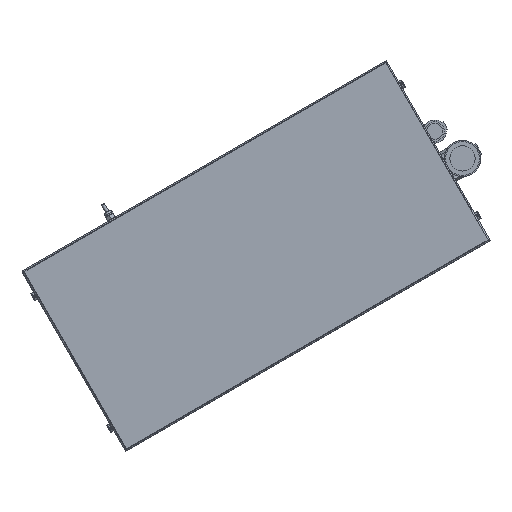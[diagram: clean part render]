
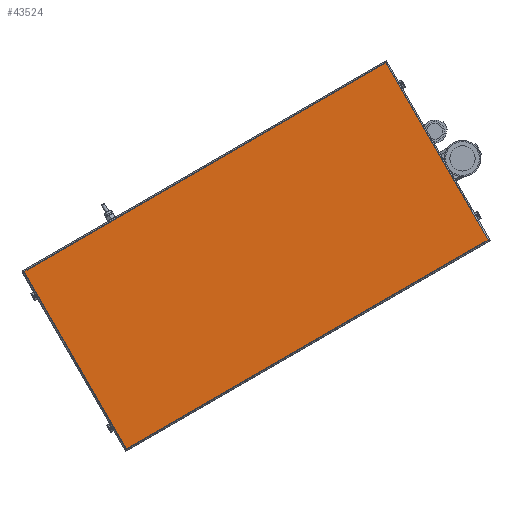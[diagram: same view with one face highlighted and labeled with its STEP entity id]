
A CAD part, top view. The second image highlights one B-rep face of the part: STEP entity #43524.
In plain terms, the highlighted planar face has unit normal (0, 0, 1).
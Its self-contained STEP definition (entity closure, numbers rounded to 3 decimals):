
#58 = DIRECTION ( 'NONE',  ( -0.5, 0.866, 0. ) ) ;
#266 = CARTESIAN_POINT ( 'NONE',  ( 384.735, 82.119, 959.5 ) ) ;
#1421 = EDGE_CURVE ( 'NONE', #32925, #24622, #3110, .T. ) ;
#2532 = ORIENTED_EDGE ( 'NONE', *, *, #36481, .T. ) ;
#2600 = CARTESIAN_POINT ( 'NONE',  ( 263.485, 292.131, 959.5 ) ) ;
#3110 = LINE ( 'NONE', #8453, #21277 ) ;
#6430 = CARTESIAN_POINT ( 'NONE',  ( 262.485, 293.863, 959.5 ) ) ;
#8453 = CARTESIAN_POINT ( 'NONE',  ( -167.363, 43.381, 959.5 ) ) ;
#8770 = AXIS2_PLACEMENT_3D ( 'NONE', #13987, #47002, #58 ) ;
#9847 = ORIENTED_EDGE ( 'NONE', *, *, #56986, .T. ) ;
#13519 = DIRECTION ( 'NONE',  ( -0.866, -0.5, 0. ) ) ;
#13987 = CARTESIAN_POINT ( 'NONE',  ( 263.668, 292.814, 959.5 ) ) ;
#14977 = VERTEX_POINT ( 'NONE', #55369 ) ;
#18070 = ORIENTED_EDGE ( 'NONE', *, *, #44502, .T. ) ;
#18637 = VECTOR ( 'NONE', #24113, 1000. ) ;
#21277 = VECTOR ( 'NONE', #13519, 1000. ) ;
#24058 = VECTOR ( 'NONE', #51124, 1000. ) ;
#24113 = DIRECTION ( 'NONE',  ( 0.866, 0.5, 0. ) ) ;
#24469 = LINE ( 'NONE', #6430, #59288 ) ;
#24622 = VERTEX_POINT ( 'NONE', #35798 ) ;
#25890 = CARTESIAN_POINT ( 'NONE',  ( -43.381, -167.363, 959.5 ) ) ;
#32925 = VERTEX_POINT ( 'NONE', #2600 ) ;
#35131 = EDGE_LOOP ( 'NONE', ( #18070, #9847, #2532, #62283 ) ) ;
#35798 = CARTESIAN_POINT ( 'NONE',  ( -165.631, 44.381, 959.5 ) ) ;
#36481 = EDGE_CURVE ( 'NONE', #44913, #32925, #24469, .T. ) ;
#43524 = ADVANCED_FACE ( 'NONE', ( #54937 ), #51135, .T. ) ;
#44502 = EDGE_CURVE ( 'NONE', #24622, #14977, #59938, .T. ) ;
#44582 = LINE ( 'NONE', #53453, #18637 ) ;
#44913 = VERTEX_POINT ( 'NONE', #266 ) ;
#47002 = DIRECTION ( 'NONE',  ( 0., 0., 1. ) ) ;
#51124 = DIRECTION ( 'NONE',  ( 0.5, -0.866, 0. ) ) ;
#51135 = PLANE ( 'NONE',  #8770 ) ;
#53453 = CARTESIAN_POINT ( 'NONE',  ( 386.467, 83.119, 959.5 ) ) ;
#53518 = DIRECTION ( 'NONE',  ( -0.5, 0.866, 0. ) ) ;
#54937 = FACE_OUTER_BOUND ( 'NONE', #35131, .T. ) ;
#55369 = CARTESIAN_POINT ( 'NONE',  ( -44.381, -165.631, 959.5 ) ) ;
#56986 = EDGE_CURVE ( 'NONE', #14977, #44913, #44582, .T. ) ;
#59288 = VECTOR ( 'NONE', #53518, 1000. ) ;
#59938 = LINE ( 'NONE', #25890, #24058 ) ;
#62283 = ORIENTED_EDGE ( 'NONE', *, *, #1421, .T. ) ;
